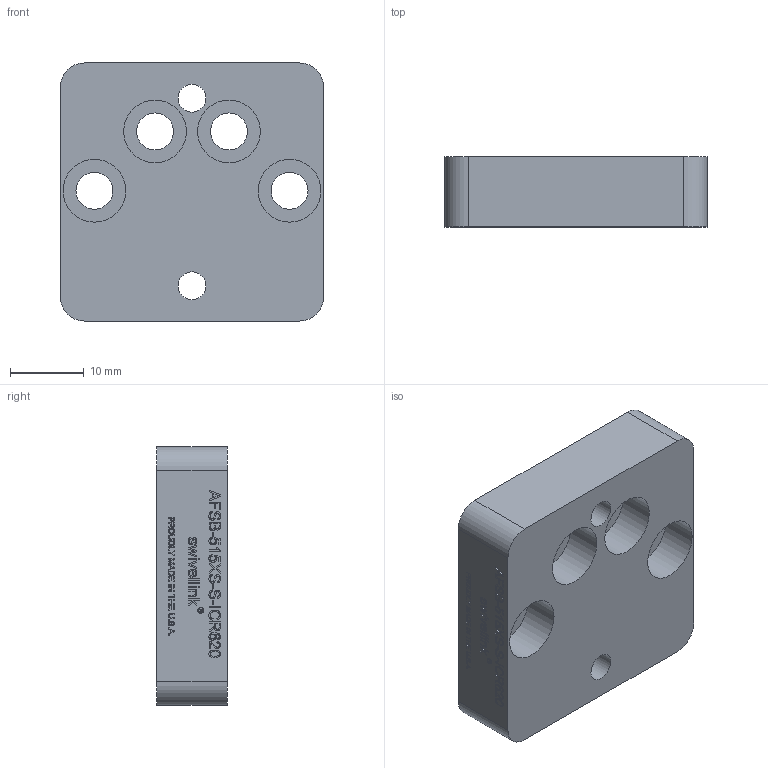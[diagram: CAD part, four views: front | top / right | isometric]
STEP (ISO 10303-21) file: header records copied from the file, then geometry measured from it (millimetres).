
FILE_DESCRIPTION( ( 'Unknown' ), '1' );
FILE_NAME( 'S:/A & P Tool/Start Button Swivel Mount/STP - IGES master files/AFSB-515XS-S-ICR620.stp', 'Unknown', ( 'Unknown' ), ( 'Unknown' ), 'PSStep 16.0.42', 'Unknown', ' ' );
FILE_SCHEMA( ( 'AUTOMOTIVE_DESIGN { 1 0 10303 214 1 1 1 1 }' ) );
Length unit declared in the file: millimetre
Products named in the file (1): 1
Bounding box: 35.56 x 9.53 x 34.92 mm (x, y, z)
Volume: 10035.4 mm3; surface area: 4648.7 mm2
Topology: 1 solids, 1 shells, 607 faces, 1518 edges, 1014 vertices
Faces by surface type: plane 480, extrusion 113, cylinder 14
Full cylindrical faces by diameter (mm): 3.785 x2, 5 x4, 8.5 x4
Entity records: 28652 total; most frequent: CARTESIAN_POINT 11222, ORIENTED_EDGE 2980, DIRECTION 1649, EDGE_CURVE 1490, B_SPLINE_CURVE_WITH_KNOTS 1085, VERTEX_POINT 1008, EDGE_LOOP 742, FACE_OUTER_BOUND 629
